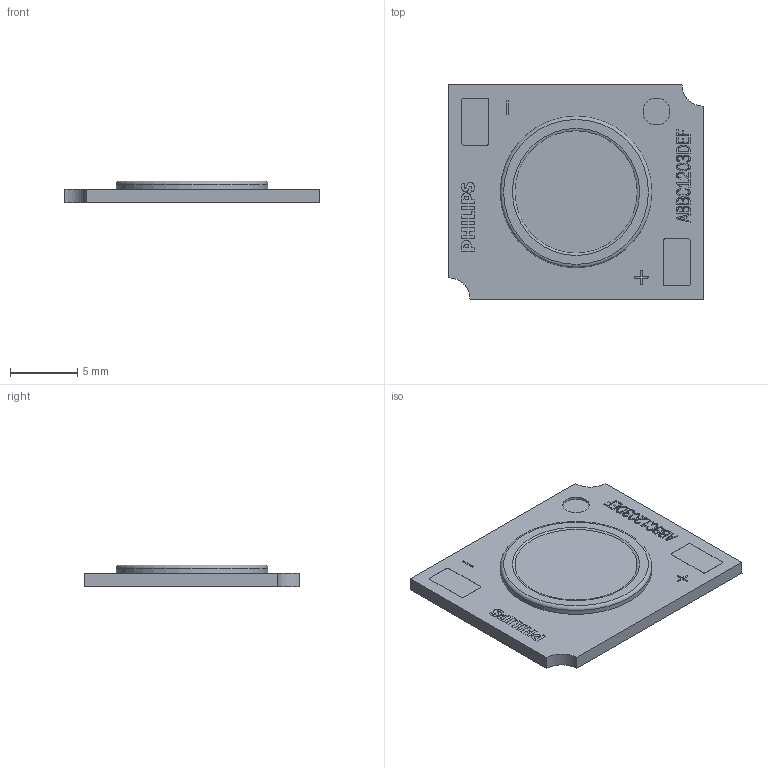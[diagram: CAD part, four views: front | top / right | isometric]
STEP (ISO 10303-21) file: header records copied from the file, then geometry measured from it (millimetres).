
FILE_DESCRIPTION(/* description */ (''),/* implementation_level */ '2;1');
FILE_NAME(/* name */ 'G7 HE+ 1203 1204.stp',/* time_stamp */ '2023-03-14T18:06:21+08:00',/* author */ (''),/* organization */ (''),/* preprocessor_version */ 'ST-DEVELOPER v16',/* originating_system */ 'SIEMENS PLM Software NX 10.0',/* authorisation */ '');
FILE_SCHEMA (('AUTOMOTIVE_DESIGN { 1 0 10303 214 3 1 1 1 }'));
Length unit declared in the file: millimetre
Products named in the file (1): 31003E3C1351hwl8
Bounding box: 19 x 16 x 1.6 mm (x, y, z)
Volume: 353.9 mm3; surface area: 689.8 mm2
Topology: 1 solids, 1 shells, 445 faces, 1248 edges, 840 vertices
Faces by surface type: plane 392, extrusion 27, cylinder 24, torus 2
Full cylindrical faces by diameter (mm): 2 x1, 11.3 x1
Entity records: 15074 total; most frequent: CARTESIAN_POINT 3693, ORIENTED_EDGE 2484, DIRECTION 1976, EDGE_CURVE 1242, VECTOR 1036, LINE 1009, VERTEX_POINT 838, EDGE_LOOP 484
